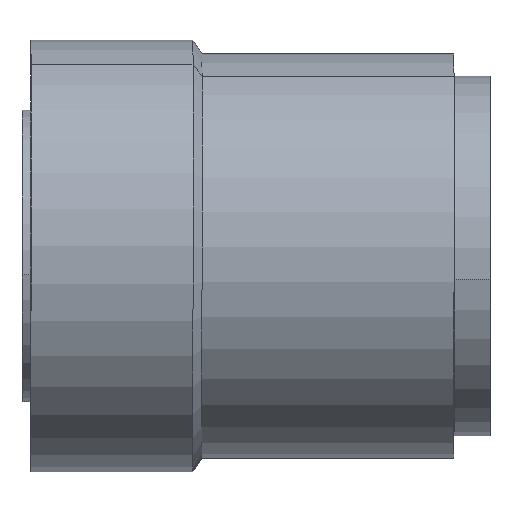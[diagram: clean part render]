
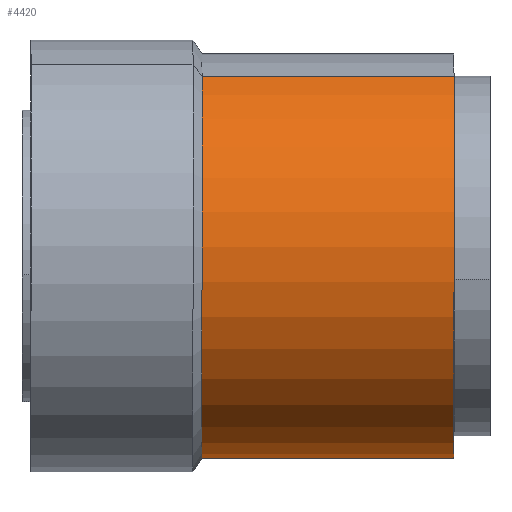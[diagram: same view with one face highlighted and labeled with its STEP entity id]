
A CAD part, front view. The second image highlights one B-rep face of the part: STEP entity #4420.
In plain terms, the highlighted cylindrical face has radius 11.25 mm (diameter 22.5 mm), a partial arc.
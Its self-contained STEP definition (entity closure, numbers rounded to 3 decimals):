
#2970=CARTESIAN_POINT('',(54.743,-0.278,0.));
#2980=DIRECTION('',(1.,0.,0.));
#2990=DIRECTION('',(0.,1.,0.));
#3000=AXIS2_PLACEMENT_3D('',#2970,#2980,#2990);
#3010=CIRCLE('',#3000,11.25);
#3020=CARTESIAN_POINT('',(54.743,10.972,0.));
#3030=VERTEX_POINT('',#3020);
#3040=CARTESIAN_POINT('',(54.743,-11.528,
0.));
#3050=VERTEX_POINT('',#3040);
#3060=EDGE_CURVE('',#3030,#3050,#3010,.T.);
#3230=CARTESIAN_POINT('',(47.943,-11.528,
0.));
#3240=DIRECTION('',(-1.,0.,0.));
#3250=VECTOR('',#3240,1.);
#3260=LINE('',#3230,#3250);
#3270=CARTESIAN_POINT('',(40.743,-11.528,
0.));
#3280=VERTEX_POINT('',#3270);
#3290=EDGE_CURVE('',#3050,#3280,#3260,.T.);
#3320=CARTESIAN_POINT('',(47.943,10.972,0.));
#3330=DIRECTION('',(-1.,0.,0.));
#3340=VECTOR('',#3330,1.);
#3350=LINE('',#3320,#3340);
#3360=CARTESIAN_POINT('',(40.743,10.972,0.));
#3370=VERTEX_POINT('',#3360);
#3380=EDGE_CURVE('',#3030,#3370,#3350,.T.);
#3400=CARTESIAN_POINT('',(40.743,-0.278,0.));
#3410=DIRECTION('',(1.,0.,0.));
#3420=DIRECTION('',(0.,1.,0.));
#3430=AXIS2_PLACEMENT_3D('',#3400,#3410,#3420);
#3440=CIRCLE('',#3430,11.25);
#4300=CARTESIAN_POINT('',(47.943,-0.278,0.));
#4310=DIRECTION('',(-1.,0.,0.));
#4320=DIRECTION('',(0.,1.,0.));
#4330=AXIS2_PLACEMENT_3D('',#4300,#4310,#4320);
#4340=CYLINDRICAL_SURFACE('',#4330,11.25);
#4350=ORIENTED_EDGE('',*,*,#3060,.F.);
#4360=ORIENTED_EDGE('',*,*,#3290,.F.);
#4370=EDGE_CURVE('',#3370,#3280,#3440,.T.);
#4380=ORIENTED_EDGE('',*,*,#4370,.T.);
#4390=ORIENTED_EDGE('',*,*,#3380,.T.);
#4400=EDGE_LOOP('',(#4390,#4380,#4360,#4350));
#4410=FACE_OUTER_BOUND('',#4400,.T.);
#4420=ADVANCED_FACE('',(#4410),#4340,.T.);
